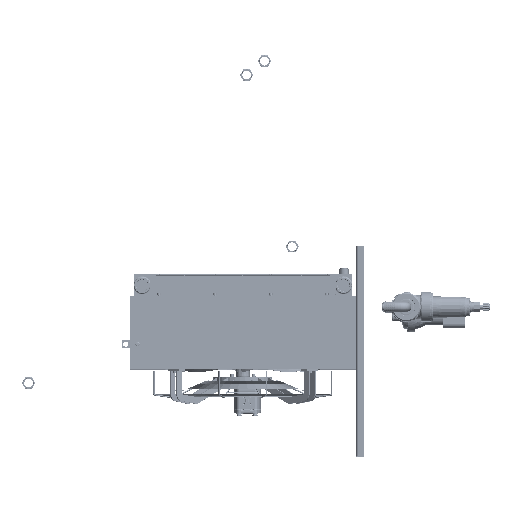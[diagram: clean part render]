
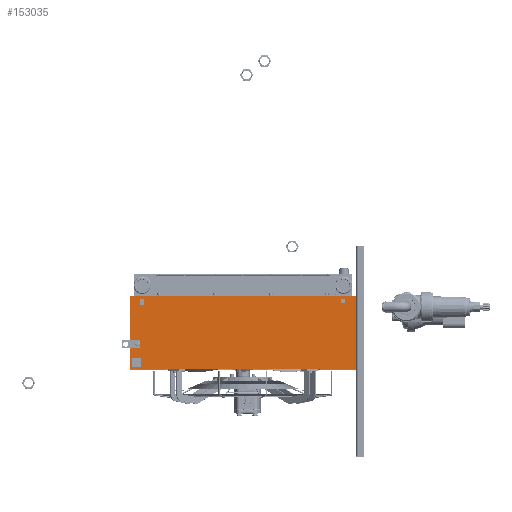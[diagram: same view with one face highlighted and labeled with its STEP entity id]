
A CAD part, top view. The second image highlights one B-rep face of the part: STEP entity #153035.
In plain terms, the highlighted planar face has unit normal (0, 0, 1) as drawn and (-1, 0, 0) by its records, which use the part's own axes.
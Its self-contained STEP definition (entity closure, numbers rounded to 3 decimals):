
#1514=FACE_BOUND('',#25816,.T.);
#1515=FACE_BOUND('',#25817,.T.);
#1516=FACE_BOUND('',#25818,.T.);
#6374=CIRCLE('',#162651,0.5);
#6376=CIRCLE('',#162654,0.5);
#6418=CIRCLE('',#162718,3.4);
#16811=FACE_OUTER_BOUND('',#25815,.T.);
#25815=EDGE_LOOP('',(#103038,#103039,#103040,#103041));
#25816=EDGE_LOOP('',(#103042));
#25817=EDGE_LOOP('',(#103043));
#25818=EDGE_LOOP('',(#103044));
#36002=LINE('',#221285,#46829);
#36003=LINE('',#221287,#46830);
#36004=LINE('',#221289,#46831);
#36005=LINE('',#221290,#46832);
#46829=VECTOR('',#178886,1000.);
#46830=VECTOR('',#178887,1000.);
#46831=VECTOR('',#178888,1000.);
#46832=VECTOR('',#178889,1000.);
#62590=VERTEX_POINT('',#220801);
#62592=VERTEX_POINT('',#220807);
#62630=VERTEX_POINT('',#220927);
#62761=VERTEX_POINT('',#221283);
#62762=VERTEX_POINT('',#221284);
#62763=VERTEX_POINT('',#221286);
#62764=VERTEX_POINT('',#221288);
#78287=EDGE_CURVE('',#62590,#62590,#6374,.T.);
#78290=EDGE_CURVE('',#62592,#62592,#6376,.T.);
#78350=EDGE_CURVE('',#62630,#62630,#6418,.T.);
#78530=EDGE_CURVE('',#62761,#62762,#36002,.T.);
#78531=EDGE_CURVE('',#62763,#62762,#36003,.T.);
#78532=EDGE_CURVE('',#62764,#62763,#36004,.T.);
#78533=EDGE_CURVE('',#62764,#62761,#36005,.T.);
#103038=ORIENTED_EDGE('',*,*,#78530,.T.);
#103039=ORIENTED_EDGE('',*,*,#78531,.F.);
#103040=ORIENTED_EDGE('',*,*,#78532,.F.);
#103041=ORIENTED_EDGE('',*,*,#78533,.T.);
#103042=ORIENTED_EDGE('',*,*,#78287,.F.);
#103043=ORIENTED_EDGE('',*,*,#78290,.F.);
#103044=ORIENTED_EDGE('',*,*,#78350,.F.);
#149373=PLANE('',#162816);
#153035=ADVANCED_FACE('',(#16811,#1514,#1515,#1516),#149373,.F.);
#162651=AXIS2_PLACEMENT_3D('',#220803,#178410,#178411);
#162654=AXIS2_PLACEMENT_3D('',#220809,#178417,#178418);
#162718=AXIS2_PLACEMENT_3D('',#220929,#178563,#178564);
#162816=AXIS2_PLACEMENT_3D('',#221282,#178884,#178885);
#178410=DIRECTION('center_axis',(-1.,0.,0.));
#178411=DIRECTION('ref_axis',(0.,0.,1.));
#178417=DIRECTION('center_axis',(-1.,0.,0.));
#178418=DIRECTION('ref_axis',(0.,0.,1.));
#178563=DIRECTION('center_axis',(-1.,0.,0.));
#178564=DIRECTION('ref_axis',(0.,0.,1.));
#178884=DIRECTION('center_axis',(1.,0.,0.));
#178885=DIRECTION('ref_axis',(0.,0.,-1.));
#178886=DIRECTION('',(0.,-1.,0.));
#178887=DIRECTION('',(0.,0.,-1.));
#178888=DIRECTION('',(0.,-1.,0.));
#178889=DIRECTION('',(0.,0.,-1.));
#220801=CARTESIAN_POINT('',(-395.,-345.,239.5));
#220803=CARTESIAN_POINT('Origin',(-395.,-345.,240.));
#220807=CARTESIAN_POINT('',(-395.,-345.,34.5));
#220809=CARTESIAN_POINT('Origin',(-395.,-345.,35.));
#220927=CARTESIAN_POINT('',(-395.,395.,91.6));
#220929=CARTESIAN_POINT('Origin',(-395.,395.,95.));
#221282=CARTESIAN_POINT('Origin',(-395.,425.,275.));
#221283=CARTESIAN_POINT('',(-395.,425.,0.));
#221284=CARTESIAN_POINT('',(-395.,-425.,0.));
#221285=CARTESIAN_POINT('',(-395.,425.,0.));
#221286=CARTESIAN_POINT('',(-395.,-425.,275.));
#221287=CARTESIAN_POINT('',(-395.,-425.,275.));
#221288=CARTESIAN_POINT('',(-395.,425.,275.));
#221289=CARTESIAN_POINT('',(-395.,425.,275.));
#221290=CARTESIAN_POINT('',(-395.,425.,275.));
